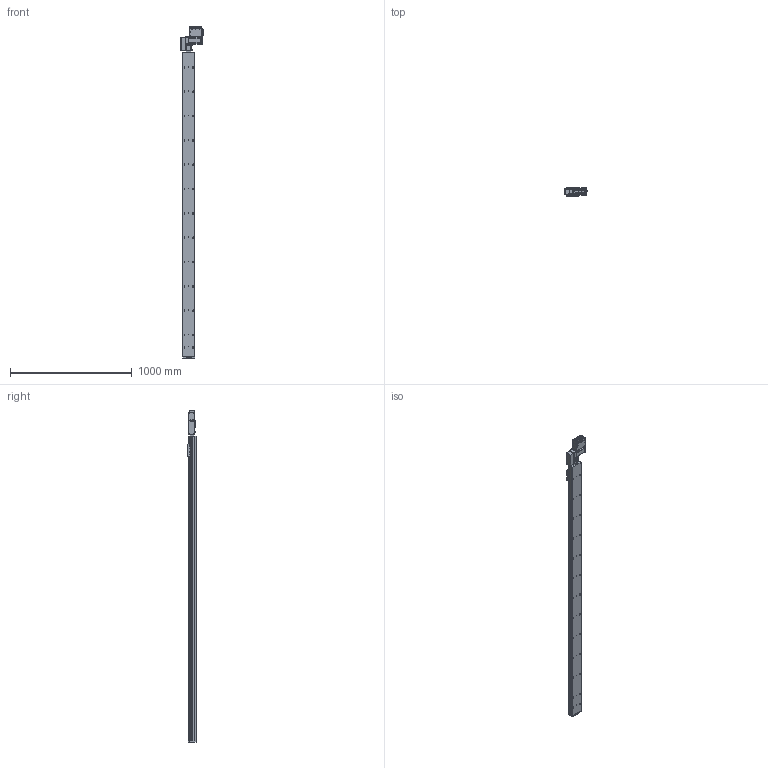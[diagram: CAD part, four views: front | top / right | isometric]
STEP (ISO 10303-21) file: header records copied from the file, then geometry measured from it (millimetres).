
FILE_DESCRIPTION (( 'STEP AP203' ), '1' );
FILE_NAME ('S10 TBH LT S2500.STEP', '2012-06-21T12:42:22', ( 'Conseil Régional Haute-Normandie' ), ( 'Conseil Régional Haute-Normandie' ), 'SwSTEP 2.0', 'SolidWorks 2010', '' );
FILE_SCHEMA (( 'CONFIG_CONTROL_DESIGN' ));
Length unit declared in the file: millimetre
Products named in the file (30): Cvis M5 L30_Default; embout; Vis M5 L16-2_Default_1; vis M5 L12_Default; Colonnette_3; Moteur 60BLDC90A_3; BU45 Carte d''axe A11_5; Sub D 9cts 90_X2_00B_X0__3; Radiateur profil_X2_00E9_X0_ 100x25_3; axe2500_Default; axe 2500; S10 TBH LT S2500; cache t皻e axe_Default; cache t皻e_Default; palette tbn; plaque de bout s10_Default; Plaque racord_Default; renvoi LH_Default; vis M5 L5_Default; Assem1_7; T_X2_00F4_X0_le contre le moteur_5; BU41 Carte Alimentation P05_3; Couvercle_3; T_X2_00F4_X0_le fond_3; Connecteur rond D10 3cts_5; Connecteur rond D12 4cts_5; Colonnette ronde_3; T_X2_00F4_X0_le Arri_X2_00E8_X0_re_5; T_X2_00F4_X0_le lat_X2_00E9_X0_rale_5; Vis TF 3 torkx_1_1
Assembly tree (63 placements, depth 3):
  S10 TBH LT S2500
    Cvis M5 L30_Default  x2
    cache t皻e_Default  x2
    plaque de bout s10_Default
    vis M5 L12_Default  x4
    vis M5 L5_Default  x4
    Assem1_7
      Colonnette_3  x2
      Radiateur profil_X2_00E9_X0_ 100x25_3
      Colonnette ronde_3
      Vis TF 3 torkx_1_1  x21
      Connecteur rond D10 3cts_5  x2
      Connecteur rond D12 4cts_5
      Sub D 9cts 90_X2_00B_X0__3
      T_X2_00F4_X0_le fond_3
      T_X2_00F4_X0_le Arri_X2_00E8_X0_re_5
      T_X2_00F4_X0_le lat_X2_00E9_X0_rale_5  x2
      BU45 Carte d''axe A11_5
      Moteur 60BLDC90A_3
      BU41 Carte Alimentation P05_3
      T_X2_00F4_X0_le contre le moteur_5
      Couvercle_3
    cache t皻e axe_Default
    Vis M5 L16-2_Default_1  x4
    palette tbn
    renvoi LH_Default
    embout
    Plaque racord_Default
    axe2500_Default
      axe 2500
Bounding box: 189.8 x 66.75 x 2728.49 mm (x, y, z)
Volume: 13785652.8 mm3; surface area: 1480697.5 mm2
Topology: 61 solids, 61 shells, 2386 faces, 5904 edges, 3807 vertices
Faces by surface type: plane 1117, cylinder 1044, cone 182, bspline 40, torus 3
Entity records: 50360 total; most frequent: CARTESIAN_POINT 9029, DIRECTION 8189, ORIENTED_EDGE 7388, EDGE_CURVE 3694, AXIS2_PLACEMENT_3D 3066, VERTEX_POINT 2411, LINE 2057, VECTOR 2057
